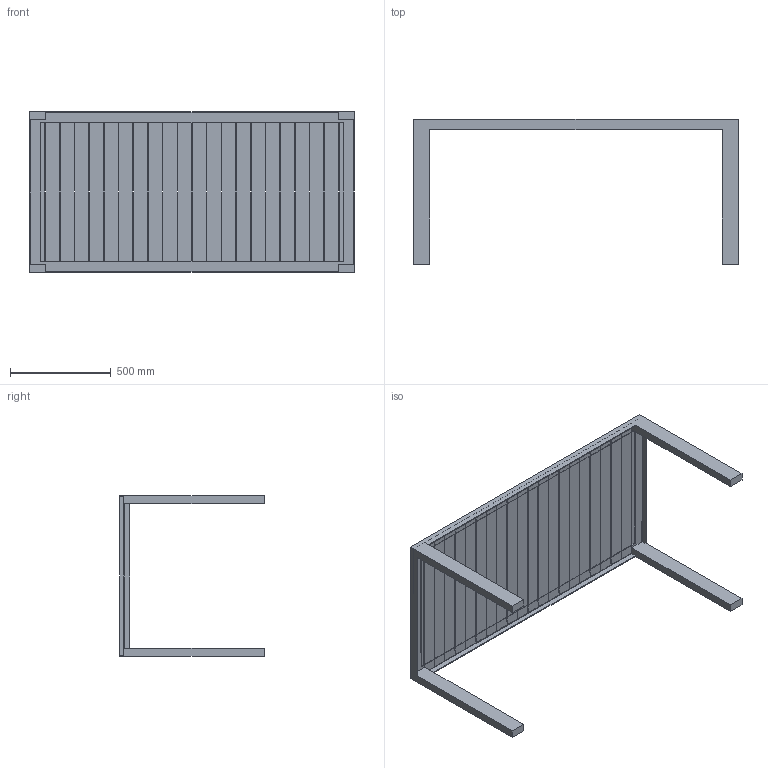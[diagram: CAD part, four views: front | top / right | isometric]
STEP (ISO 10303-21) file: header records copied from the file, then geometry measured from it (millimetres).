
FILE_DESCRIPTION(/* description */ (''),/* implementation_level */ '2;1');
FILE_NAME(/* name */ 'C:\INVENTOR\Workspace\# ARKITEKT FILER\Garden Dinner Table\Garden Dinner Table 160.stp',/* time_stamp */ '2020-06-22T14:15:37+02:00',/* author */ ('Röshults'),/* organization */ (''),/* preprocessor_version */ 'ST-DEVELOPER v17.2',/* originating_system */ 'Autodesk Inventor 2019',/* authorisation */ '');
FILE_SCHEMA (('AUTOMOTIVE_DESIGN { 1 0 10303 214 3 1 1 }'));
Length unit declared in the file: millimetre
Products named in the file (1): Garden Dinner Table 160
Bounding box: 1615 x 720 x 800 mm (x, y, z)
Volume: 36159240 mm3; surface area: 4411004 mm2
Topology: 1 solids, 1 shells, 167 faces, 528 edges, 324 vertices
Faces by surface type: plane 167
Entity records: 5874 total; most frequent: ORIENTED_EDGE 1056, CARTESIAN_POINT 1020, DIRECTION 864, LINE 528, VECTOR 528, EDGE_CURVE 528, VERTEX_POINT 324, EDGE_LOOP 170
